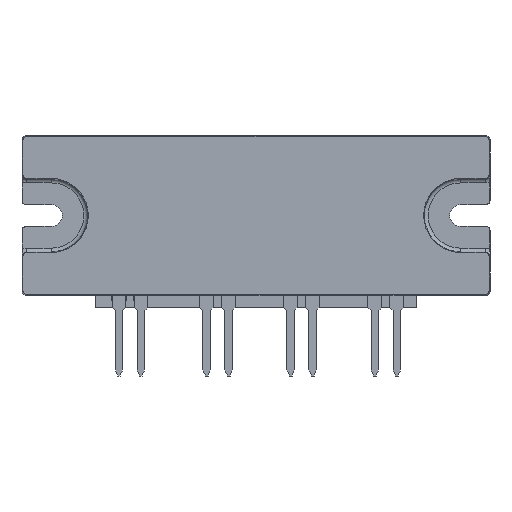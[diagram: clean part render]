
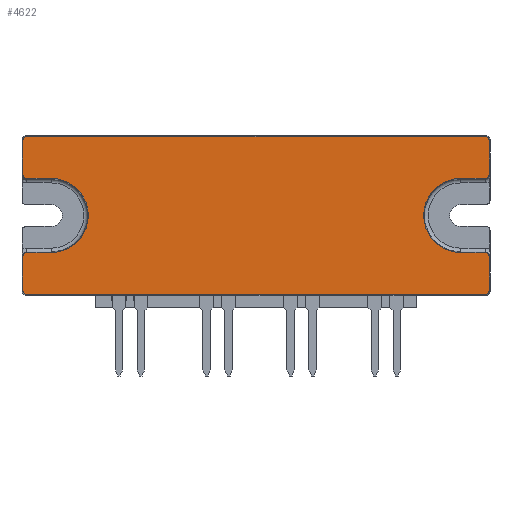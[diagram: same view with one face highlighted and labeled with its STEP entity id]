
A CAD part, top view. The second image highlights one B-rep face of the part: STEP entity #4622.
In plain terms, the highlighted planar face has unit normal (0, 0, 1).
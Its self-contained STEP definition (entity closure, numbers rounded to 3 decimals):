
#26=ELLIPSE('',#4862,0.7,0.7);
#27=ELLIPSE('',#4868,0.7,0.7);
#34=ELLIPSE('',#4887,0.7,0.7);
#35=ELLIPSE('',#4901,0.7,0.7);
#44=ELLIPSE('',#4916,0.7,0.7);
#45=ELLIPSE('',#4918,0.7,0.7);
#46=ELLIPSE('',#4919,0.7,0.7);
#47=ELLIPSE('',#4921,0.7,0.7);
#317=CIRCLE('',#4865,6.436);
#328=CIRCLE('',#4920,6.436);
#380=FACE_OUTER_BOUND('',#610,.T.);
#610=EDGE_LOOP('',(#3421,#3422,#3423,#3424,#3425,#3426,#3427,#3428,#3429,
#3430,#3431,#3432,#3433,#3434,#3435,#3436,#3437,#3438,#3439,#3440));
#925=LINE('',#6646,#1521);
#928=LINE('',#6654,#1524);
#941=LINE('',#6786,#1537);
#962=LINE('',#6827,#1558);
#971=LINE('',#6849,#1567);
#984=LINE('',#6897,#1580);
#985=LINE('',#6901,#1581);
#986=LINE('',#6904,#1582);
#987=LINE('',#6907,#1583);
#988=LINE('',#6909,#1584);
#1521=VECTOR('',#5321,10.);
#1524=VECTOR('',#5330,10.);
#1537=VECTOR('',#5387,10.);
#1558=VECTOR('',#5422,10.);
#1567=VECTOR('',#5447,10.);
#1580=VECTOR('',#5488,10.);
#1581=VECTOR('',#5491,10.);
#1582=VECTOR('',#5494,10.);
#1583=VECTOR('',#5497,10.);
#1584=VECTOR('',#5498,10.);
#2112=VERTEX_POINT('',#6638);
#2113=VERTEX_POINT('',#6640);
#2114=VERTEX_POINT('',#6644);
#2115=VERTEX_POINT('',#6648);
#2116=VERTEX_POINT('',#6652);
#2117=VERTEX_POINT('',#6656);
#2136=VERTEX_POINT('',#6778);
#2137=VERTEX_POINT('',#6780);
#2138=VERTEX_POINT('',#6784);
#2150=VERTEX_POINT('',#6824);
#2151=VERTEX_POINT('',#6826);
#2153=VERTEX_POINT('',#6838);
#2175=VERTEX_POINT('',#6890);
#2176=VERTEX_POINT('',#6892);
#2177=VERTEX_POINT('',#6896);
#2178=VERTEX_POINT('',#6898);
#2179=VERTEX_POINT('',#6900);
#2180=VERTEX_POINT('',#6902);
#2181=VERTEX_POINT('',#6905);
#2182=VERTEX_POINT('',#6908);
#2562=EDGE_CURVE('',#2112,#2113,#26,.T.);
#2565=EDGE_CURVE('',#2112,#2114,#925,.T.);
#2567=EDGE_CURVE('',#2114,#2115,#317,.T.);
#2569=EDGE_CURVE('',#2115,#2116,#928,.T.);
#2571=EDGE_CURVE('',#2117,#2116,#27,.T.);
#2596=EDGE_CURVE('',#2136,#2137,#34,.T.);
#2599=EDGE_CURVE('',#2136,#2138,#941,.T.);
#2620=EDGE_CURVE('',#2150,#2151,#962,.T.);
#2625=EDGE_CURVE('',#2153,#2150,#35,.T.);
#2631=EDGE_CURVE('',#2113,#2153,#971,.T.);
#2653=EDGE_CURVE('',#2175,#2176,#44,.T.);
#2655=EDGE_CURVE('',#2177,#2117,#984,.T.);
#2656=EDGE_CURVE('',#2178,#2177,#45,.T.);
#2657=EDGE_CURVE('',#2179,#2178,#985,.T.);
#2658=EDGE_CURVE('',#2180,#2179,#46,.T.);
#2659=EDGE_CURVE('',#2137,#2180,#986,.T.);
#2660=EDGE_CURVE('',#2138,#2181,#328,.T.);
#2661=EDGE_CURVE('',#2181,#2176,#987,.T.);
#2662=EDGE_CURVE('',#2182,#2175,#988,.T.);
#2663=EDGE_CURVE('',#2151,#2182,#47,.T.);
#3421=ORIENTED_EDGE('',*,*,#2625,.F.);
#3422=ORIENTED_EDGE('',*,*,#2631,.F.);
#3423=ORIENTED_EDGE('',*,*,#2562,.F.);
#3424=ORIENTED_EDGE('',*,*,#2565,.T.);
#3425=ORIENTED_EDGE('',*,*,#2567,.T.);
#3426=ORIENTED_EDGE('',*,*,#2569,.T.);
#3427=ORIENTED_EDGE('',*,*,#2571,.F.);
#3428=ORIENTED_EDGE('',*,*,#2655,.F.);
#3429=ORIENTED_EDGE('',*,*,#2656,.F.);
#3430=ORIENTED_EDGE('',*,*,#2657,.F.);
#3431=ORIENTED_EDGE('',*,*,#2658,.F.);
#3432=ORIENTED_EDGE('',*,*,#2659,.F.);
#3433=ORIENTED_EDGE('',*,*,#2596,.F.);
#3434=ORIENTED_EDGE('',*,*,#2599,.T.);
#3435=ORIENTED_EDGE('',*,*,#2660,.T.);
#3436=ORIENTED_EDGE('',*,*,#2661,.T.);
#3437=ORIENTED_EDGE('',*,*,#2653,.F.);
#3438=ORIENTED_EDGE('',*,*,#2662,.F.);
#3439=ORIENTED_EDGE('',*,*,#2663,.F.);
#3440=ORIENTED_EDGE('',*,*,#2620,.F.);
#4403=PLANE('',#4917);
#4622=ADVANCED_FACE('',(#380),#4403,.T.);
#4862=AXIS2_PLACEMENT_3D('',#6641,#5315,#5316);
#4865=AXIS2_PLACEMENT_3D('',#6650,#5325,#5326);
#4868=AXIS2_PLACEMENT_3D('',#6658,#5334,#5335);
#4887=AXIS2_PLACEMENT_3D('',#6781,#5381,#5382);
#4901=AXIS2_PLACEMENT_3D('',#6839,#5437,#5438);
#4916=AXIS2_PLACEMENT_3D('',#6893,#5483,#5484);
#4917=AXIS2_PLACEMENT_3D('',#6895,#5486,#5487);
#4918=AXIS2_PLACEMENT_3D('',#6899,#5489,#5490);
#4919=AXIS2_PLACEMENT_3D('',#6903,#5492,#5493);
#4920=AXIS2_PLACEMENT_3D('',#6906,#5495,#5496);
#4921=AXIS2_PLACEMENT_3D('',#6910,#5499,#5500);
#5315=DIRECTION('center_axis',(0.,0.,
-1.));
#5316=DIRECTION('ref_axis',(0.707,0.707,0.));
#5321=DIRECTION('',(-1.,0.,0.));
#5325=DIRECTION('center_axis',(0.,0.,
-1.));
#5326=DIRECTION('ref_axis',(0.,-1.,0.));
#5330=DIRECTION('',(1.,0.,0.));
#5334=DIRECTION('center_axis',(0.,0.,
-1.));
#5335=DIRECTION('ref_axis',(0.707,-0.707,0.));
#5381=DIRECTION('center_axis',(0.,0.,
-1.));
#5382=DIRECTION('ref_axis',(-0.707,-0.707,0.));
#5387=DIRECTION('',(1.,0.,0.));
#5422=DIRECTION('',(-1.,0.,0.));
#5437=DIRECTION('center_axis',(0.,0.,
-1.));
#5438=DIRECTION('ref_axis',(0.707,-0.707,0.));
#5447=DIRECTION('',(0.,-1.,0.));
#5483=DIRECTION('center_axis',(0.,0.,
-1.));
#5484=DIRECTION('ref_axis',(-0.707,0.707,0.));
#5486=DIRECTION('center_axis',(0.,0.,
1.));
#5487=DIRECTION('ref_axis',(1.,0.,0.));
#5488=DIRECTION('',(0.,-1.,0.));
#5489=DIRECTION('center_axis',(0.,0.,
-1.));
#5490=DIRECTION('ref_axis',(0.707,0.707,0.));
#5491=DIRECTION('',(1.,0.,0.));
#5492=DIRECTION('center_axis',(0.,0.,
-1.));
#5493=DIRECTION('ref_axis',(-0.707,0.707,0.));
#5494=DIRECTION('',(0.,1.,0.));
#5495=DIRECTION('center_axis',(0.,0.,
-1.));
#5496=DIRECTION('ref_axis',(0.,1.,0.));
#5497=DIRECTION('',(-1.,0.,0.));
#5498=DIRECTION('',(0.,1.,0.));
#5499=DIRECTION('center_axis',(0.,0.,
-1.));
#5500=DIRECTION('ref_axis',(-0.707,-0.707,0.));
#6638=CARTESIAN_POINT('',(39.802,9.476,6.64));
#6640=CARTESIAN_POINT('',(40.502,8.776,6.64));
#6641=CARTESIAN_POINT('Origin',(39.802,8.776,6.64));
#6644=CARTESIAN_POINT('',(35.56,9.476,6.64));
#6646=CARTESIAN_POINT('',(20.32,9.476,6.64));
#6648=CARTESIAN_POINT('',(35.56,22.347,6.64));
#6650=CARTESIAN_POINT('Origin',(35.56,15.912,6.64));
#6652=CARTESIAN_POINT('',(39.802,22.347,6.64));
#6654=CARTESIAN_POINT('',(17.78,22.347,6.64));
#6656=CARTESIAN_POINT('',(40.502,23.047,6.64));
#6658=CARTESIAN_POINT('Origin',(39.802,23.047,6.64));
#6778=CARTESIAN_POINT('',(-39.802,22.347,6.64));
#6780=CARTESIAN_POINT('',(-40.502,23.047,6.64));
#6781=CARTESIAN_POINT('Origin',(-39.802,23.047,6.64));
#6784=CARTESIAN_POINT('',(-35.56,22.347,6.64));
#6786=CARTESIAN_POINT('',(-20.32,22.347,6.64));
#6824=CARTESIAN_POINT('',(39.802,2.207,6.64));
#6826=CARTESIAN_POINT('',(-39.802,2.207,6.64));
#6827=CARTESIAN_POINT('',(40.64,2.207,6.64));
#6838=CARTESIAN_POINT('',(40.502,2.906,6.64));
#6839=CARTESIAN_POINT('Origin',(39.802,2.907,6.64));
#6849=CARTESIAN_POINT('',(40.502,29.755,6.64));
#6890=CARTESIAN_POINT('',(-40.502,8.776,6.64));
#6892=CARTESIAN_POINT('',(-39.802,9.476,6.64));
#6893=CARTESIAN_POINT('Origin',(-39.802,8.776,6.64));
#6895=CARTESIAN_POINT('Origin',(0.,15.912,6.64));
#6896=CARTESIAN_POINT('',(40.502,28.917,6.64));
#6897=CARTESIAN_POINT('',(40.502,29.755,6.64));
#6898=CARTESIAN_POINT('',(39.802,29.617,6.64));
#6899=CARTESIAN_POINT('Origin',(39.802,28.917,6.64));
#6900=CARTESIAN_POINT('',(-39.802,29.617,6.64));
#6901=CARTESIAN_POINT('',(-40.64,29.617,6.64));
#6902=CARTESIAN_POINT('',(-40.502,28.917,6.64));
#6903=CARTESIAN_POINT('Origin',(-39.802,28.917,6.64));
#6904=CARTESIAN_POINT('',(-40.502,2.069,6.64));
#6905=CARTESIAN_POINT('',(-35.56,9.476,6.64));
#6906=CARTESIAN_POINT('Origin',(-35.56,15.912,6.64));
#6907=CARTESIAN_POINT('',(-17.78,9.476,6.64));
#6908=CARTESIAN_POINT('',(-40.502,2.906,6.64));
#6909=CARTESIAN_POINT('',(-40.502,2.069,6.64));
#6910=CARTESIAN_POINT('Origin',(-39.802,2.907,6.64));
